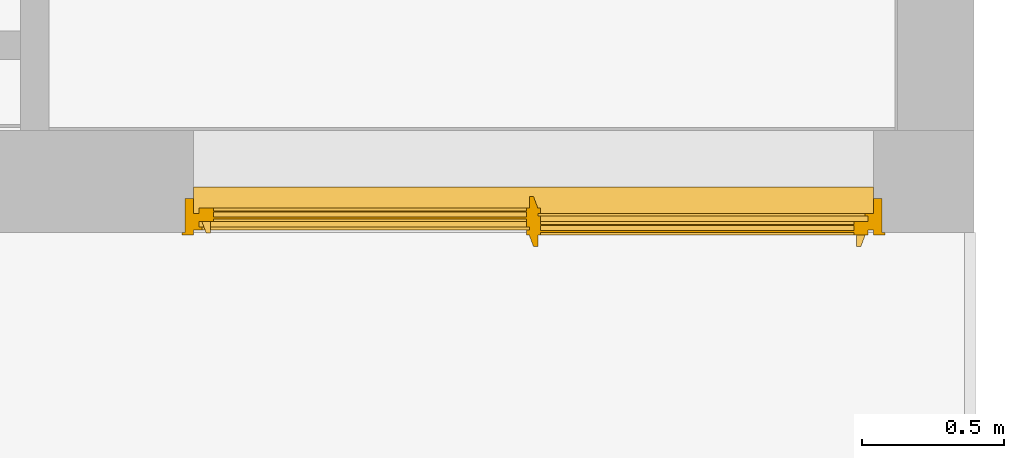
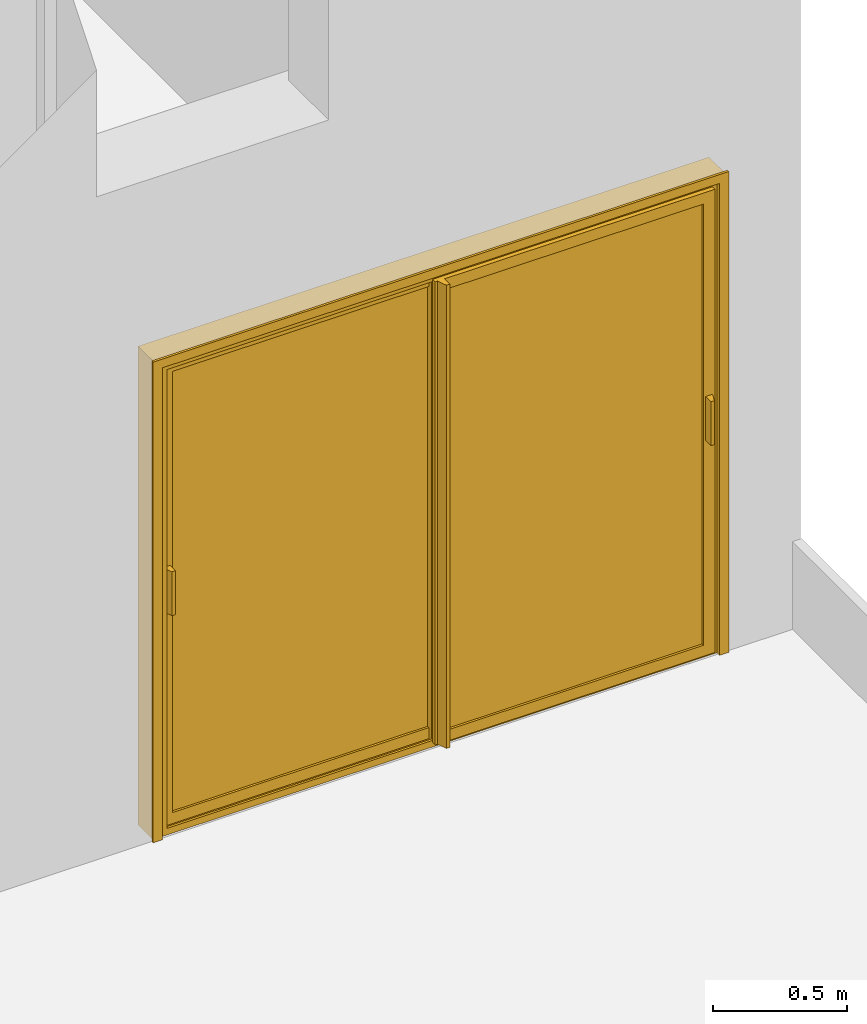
# One storey, part 78 of 81: 1 door.
"""IFC2X3 building model written with IfcOpenShell, lengths in metres."""

from ifc_helpers import new_model, entity, si_unit, converted_unit, derived_unit, direction, frame, origin, place, context, subcontext, project, spatial, faceted_brep, source, transform, mapped, material, material_list, type_object, type_shapes, element, save


model = new_model("IFC2X3")

# Units and contexts
model_context = context("Model", 3, precision=1e-05, world=origin(), true_north=direction((6.12303176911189e-17, 1.0)))
body_context = subcontext(model_context, "Body", "Model", "MODEL_VIEW")
ifc_project = project(units=[si_unit("LENGTHUNIT", "METRE"), si_unit("AREAUNIT", "SQUARE_METRE"), si_unit("VOLUMEUNIT", "CUBIC_METRE"), converted_unit("PLANEANGLEUNIT", "DEGREE", entity("IfcRatioMeasure", 0.0174532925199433), si_unit("PLANEANGLEUNIT", "RADIAN"), dimensions=[0, 0, 0, 0, 0, 0, 0]), si_unit("MASSUNIT", "GRAM", prefix="KILO"), derived_unit("MASSDENSITYUNIT", [(si_unit("MASSUNIT", "GRAM", prefix="KILO"), 1), (si_unit("LENGTHUNIT", "METRE"), -3)]), derived_unit("MOMENTOFINERTIAUNIT", [(si_unit("LENGTHUNIT", "METRE"), 4)]), si_unit("TIMEUNIT", "SECOND"), si_unit("FREQUENCYUNIT", "HERTZ"), si_unit("THERMODYNAMICTEMPERATUREUNIT", "DEGREE_CELSIUS"), derived_unit("THERMALTRANSMITTANCEUNIT", [(si_unit("MASSUNIT", "GRAM", prefix="KILO"), 1), (si_unit("THERMODYNAMICTEMPERATUREUNIT", "KELVIN"), -1), (si_unit("TIMEUNIT", "SECOND"), -3)]), derived_unit("VOLUMETRICFLOWRATEUNIT", [(si_unit("LENGTHUNIT", "METRE"), 3), (si_unit("TIMEUNIT", "SECOND"), -1)]), si_unit("ELECTRICCURRENTUNIT", "AMPERE"), si_unit("ELECTRICVOLTAGEUNIT", "VOLT"), si_unit("POWERUNIT", "WATT"), si_unit("FORCEUNIT", "NEWTON", prefix="KILO"), si_unit("ILLUMINANCEUNIT", "LUX"), si_unit("LUMINOUSFLUXUNIT", "LUMEN"), si_unit("LUMINOUSINTENSITYUNIT", "CANDELA"), derived_unit("USERDEFINED", [(si_unit("MASSUNIT", "GRAM", prefix="KILO"), -1), (si_unit("LENGTHUNIT", "METRE"), -2), (si_unit("TIMEUNIT", "SECOND"), 3), (si_unit("LUMINOUSFLUXUNIT", "LUMEN"), 1)]), derived_unit("LINEARVELOCITYUNIT", [(si_unit("LENGTHUNIT", "METRE"), 1), (si_unit("TIMEUNIT", "SECOND"), -1)]), si_unit("PRESSUREUNIT", "PASCAL"), derived_unit("USERDEFINED", [(si_unit("LENGTHUNIT", "METRE"), -2), (si_unit("MASSUNIT", "GRAM", prefix="KILO"), 1), (si_unit("TIMEUNIT", "SECOND"), -2)]), derived_unit("LINEARFORCEUNIT", [(si_unit("MASSUNIT", "GRAM", prefix="KILO"), 1), (si_unit("LENGTHUNIT", "METRE"), 1), (si_unit("TIMEUNIT", "SECOND"), -2), (si_unit("LENGTHUNIT", "METRE"), -1)]), derived_unit("PLANARFORCEUNIT", [(si_unit("MASSUNIT", "GRAM", prefix="KILO"), 1), (si_unit("LENGTHUNIT", "METRE"), 1), (si_unit("TIMEUNIT", "SECOND"), -2), (si_unit("LENGTHUNIT", "METRE"), -2)])], contexts=[model_context])

# Site, building, storey
site_placement = place(None, origin())
site = spatial("IfcSite", under=ifc_project, at=site_placement, Name="Surface", CompositionType="ELEMENT")
building_placement = place(site_placement, origin())
building = spatial("IfcBuilding", under=site, at=building_placement, CompositionType="ELEMENT")
storey_placement = place(building_placement, origin())
storey = spatial("IfcBuildingStorey", under=building, at=storey_placement, Name="01 RDC", CompositionType="ELEMENT", Elevation=-1.94916083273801e-14)

# Door
ifc_material_1 = material(Name="RAL_7M16ST")
ifc_material_2 = material(Name="Generique - PIERRET - Blanc")
ifc_material_3 = material(Name="Verre - PIERRET - Vitrage")
ifc_material_4 = material(Name="Polyamide - PIERRET - Joint-Intercalaire")
ifc_material_5 = material(Name="Generique - PIERRET - Gris")
ifc_material_list_1 = material_list([ifc_material_1, ifc_material_2, ifc_material_3, ifc_material_4, ifc_material_5])
ifc_material_list_2 = material_list([ifc_material_1, ifc_material_1])
door_style = type_object("IfcDoorStyle", Name="Doors_Sliding_PIERRET_Porte-Fenetre_Coulissante_2V:2400 x 2150 mm", ConstructionType="NOTDEFINED", OperationType="DOUBLE_DOOR_SLIDING", ParameterTakesPrecedence=False, Sizeable=False, material=ifc_material_list_2)
shared_shape = source(origin(), body_context, "Body", "Brep", [
    faceted_brep([(1.215, 0.186000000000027, 0.0200000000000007), (1.215, 0.226000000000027, 0.0200000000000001), (1.23, 0.226000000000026, 0.0200000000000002), (1.245, 0.186000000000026, 0.0200000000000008), (1.21499999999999, 0.186000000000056, 2.13), (1.24499999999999, 0.186000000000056, 2.13), (1.22999999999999, 0.226000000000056, 2.13), (1.21499999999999, 0.226000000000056, 2.13)], [[[0, 1, 2, 3]], [[4, 5, 6, 7]], [[3, 5, 4, 0]], [[2, 6, 5, 3]], [[1, 7, 6, 2]], [[0, 4, 7, 1]]]),
    faceted_brep([(1.245, 0.0899999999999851, 0.0200000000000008), (1.245, 0.0499999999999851, 0.0200000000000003), (1.23, 0.0499999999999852, 0.0200000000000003), (1.215, 0.0899999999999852, 0.0200000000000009), (1.24500000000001, 0.0899999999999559, 2.13), (1.21500000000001, 0.089999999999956, 2.13), (1.23000000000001, 0.049999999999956, 2.13), (1.24500000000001, 0.0499999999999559, 2.13)], [[[0, 1, 2, 3]], [[4, 5, 6, 7]], [[3, 5, 4, 0]], [[2, 6, 5, 3]], [[1, 7, 6, 2]], [[0, 4, 7, 1]]]),
    faceted_brep([(0.090000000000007, 0.137999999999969, 1.0), (0.0900000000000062, 0.0979999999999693, 1.0), (0.0750000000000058, 0.0979999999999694, 1.0), (0.060000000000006, 0.137999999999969, 1.0), (0.090000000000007, 0.137999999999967, 1.2), (0.060000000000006, 0.137999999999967, 1.2), (0.0750000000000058, 0.0979999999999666, 1.2), (0.0900000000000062, 0.0979999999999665, 1.2)], [[[0, 1, 2, 3]], [[4, 5, 6, 7]], [[3, 5, 4, 0]], [[2, 6, 5, 3]], [[1, 7, 6, 2]], [[0, 4, 7, 1]]]),
    faceted_brep([(0.0880000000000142, 0.147999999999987, 0.0580000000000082), (0.0880000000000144, 0.153999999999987, 0.0580000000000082), (1.217, 0.153999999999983, 0.0580000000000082), (1.217, 0.147999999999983, 0.0580000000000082), (0.0880000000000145, 0.147999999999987, 2.09200000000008), (1.217, 0.147999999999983, 2.09200000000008), (1.217, 0.153999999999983, 2.09200000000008), (0.0880000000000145, 0.153999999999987, 2.09200000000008)], [[[0, 1, 2, 3]], [[4, 0, 3, 5]], [[5, 3, 2, 6]], [[6, 2, 1, 7]], [[7, 1, 0, 4]], [[4, 5, 6, 7]]]),
    faceted_brep([(1.217, 0.171999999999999, 2.09200000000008), (1.217, 0.171999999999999, 0.0580000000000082), (1.217, 0.175999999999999, 0.0580000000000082), (1.217, 0.175999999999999, 2.09200000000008), (0.0880000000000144, 0.176000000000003, 0.0580000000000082), (0.0880000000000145, 0.176000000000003, 2.09200000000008), (0.0880000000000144, 0.172000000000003, 0.0580000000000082), (0.0880000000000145, 0.172000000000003, 2.09200000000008)], [[[0, 1, 2, 3]], [[3, 2, 4, 5]], [[5, 4, 6, 7]], [[7, 6, 1, 0]], [[0, 3, 5, 7]], [[1, 6, 4, 2]]]),
    faceted_brep([(1.217, 0.153999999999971, 2.09199999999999), (1.217, 0.154, 0.0579999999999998), (1.217, 0.172000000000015, 0.0580000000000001), (1.217, 0.171999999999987, 2.09199999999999), (0.0880000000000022, 0.154000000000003, 0.0579999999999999), (0.0880000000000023, 0.172000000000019, 0.0580000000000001), (0.0880000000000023, 0.171999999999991, 2.09199999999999), (0.100000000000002, 0.172000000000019, 0.0699999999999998), (1.205, 0.172000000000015, 0.0699999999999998), (1.205, 0.171999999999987, 2.07999999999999), (0.100000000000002, 0.171999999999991, 2.08), (0.0880000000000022, 0.153999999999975, 2.09199999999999), (1.205, 0.153999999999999, 0.0699999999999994), (0.100000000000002, 0.154000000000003, 0.0699999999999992), (0.100000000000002, 0.153999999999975, 2.07999999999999), (1.205, 0.153999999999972, 2.07999999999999)], [[[0, 1, 2, 3]], [[1, 4, 5, 2]], [[2, 5, 6, 3], [7, 8, 9, 10]], [[4, 11, 6, 5]], [[4, 1, 0, 11], [12, 13, 14, 15]], [[8, 7, 13, 12]], [[7, 10, 14, 13]], [[10, 9, 15, 14]], [[11, 0, 3, 6]], [[9, 8, 12, 15]]]),
    faceted_brep([(1.217, 0.175999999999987, 2.09199999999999), (1.217, 0.176000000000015, 0.0580000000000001), (1.217, 0.147999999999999, 0.0579999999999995), (1.217, 0.147999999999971, 2.09199999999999), (0.0880000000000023, 0.176000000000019, 0.0580000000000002), (0.0880000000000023, 0.148000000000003, 0.0579999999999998), (0.0880000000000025, 0.147999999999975, 2.09199999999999), (0.080000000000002, 0.148000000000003, 0.0499999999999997), (1.225, 0.147999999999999, 0.0499999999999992), (1.225, 0.147999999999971, 2.09999999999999), (0.0800000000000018, 0.147999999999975, 2.09999999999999), (0.0880000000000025, 0.17599999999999, 2.09199999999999), (1.225, 0.176000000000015, 0.0499999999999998), (0.0800000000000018, 0.176000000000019, 0.0499999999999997), (0.080000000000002, 0.17599999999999, 2.09999999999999), (1.225, 0.175999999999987, 2.09999999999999)], [[[0, 1, 2, 3]], [[1, 4, 5, 2]], [[2, 5, 6, 3], [7, 8, 9, 10]], [[4, 11, 6, 5]], [[4, 1, 0, 11], [12, 13, 14, 15]], [[9, 8, 12, 15]], [[8, 7, 13, 12]], [[7, 10, 14, 13]], [[11, 0, 3, 6]], [[10, 9, 15, 14]]], outer=[[True], [True], [False, True], [True], [False, True], [True], [True], [True], [True], [True]]),
    faceted_brep([(1.225, 0.16199999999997, 2.10000000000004), (1.225, 0.161999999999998, 0.050000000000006), (1.225, 0.147999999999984, 0.050000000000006), (1.225, 0.147999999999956, 2.10000000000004), (0.0800000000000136, 0.162000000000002, 0.050000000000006), (0.0800000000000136, 0.147999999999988, 0.0500000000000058), (0.0800000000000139, 0.14799999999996, 2.10000000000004), (0.100000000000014, 0.147999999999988, 0.0700000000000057), (1.205, 0.147999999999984, 0.0700000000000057), (1.205, 0.147999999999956, 2.08000000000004), (0.100000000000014, 0.14799999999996, 2.08000000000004), (0.0800000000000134, 0.161999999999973, 2.10000000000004), (1.245, 0.161999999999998, 0.030000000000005), (0.0600000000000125, 0.162000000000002, 0.0300000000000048), (0.0600000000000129, 0.161999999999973, 2.12000000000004), (1.245, 0.161999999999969, 2.12000000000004), (1.245, 0.156999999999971, 2.12000000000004), (1.245, 0.157, 0.0300000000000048), (0.0600000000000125, 0.157000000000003, 0.0300000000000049), (0.0600000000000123, 0.156999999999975, 2.12000000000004), (1.255, 0.157, 0.0200000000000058), (0.0500000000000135, 0.157000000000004, 0.0200000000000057), (0.0500000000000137, 0.156999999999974, 2.13000000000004), (1.255, 0.156999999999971, 2.13000000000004), (1.255, 0.137999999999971, 2.13000000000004), (1.255, 0.138000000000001, 0.0200000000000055), (0.0500000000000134, 0.138000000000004, 0.0200000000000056), (0.0500000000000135, 0.137999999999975, 2.13000000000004), (1.205, 0.138, 0.0700000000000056), (0.100000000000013, 0.138000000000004, 0.0700000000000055), (0.100000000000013, 0.137999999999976, 2.08000000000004), (1.205, 0.137999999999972, 2.08000000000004)], [[[0, 1, 2, 3]], [[1, 4, 5, 2]], [[2, 5, 6, 3], [7, 8, 9, 10]], [[4, 11, 6, 5]], [[4, 1, 0, 11], [12, 13, 14, 15]], [[16, 17, 12, 15]], [[17, 18, 13, 12]], [[18, 19, 14, 13]], [[18, 17, 16, 19], [20, 21, 22, 23]], [[24, 25, 20, 23]], [[25, 26, 21, 20]], [[26, 27, 22, 21]], [[26, 25, 24, 27], [28, 29, 30, 31]], [[8, 7, 29, 28]], [[7, 10, 30, 29]], [[10, 9, 31, 30]], [[11, 0, 3, 6]], [[19, 16, 15, 14]], [[27, 24, 23, 22]], [[9, 8, 28, 31]]], outer=[[True], [True], [True, False], [True], [False, True], [True], [True], [True], [False, True], [True], [True], [True], [True, False], [True], [True], [True], [True], [True], [True], [True]]),
    faceted_brep([(1.255, 0.166999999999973, 2.13000000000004), (1.255, 0.167000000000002, 0.0199999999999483), (1.255, 0.186, 0.0199999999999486), (1.255, 0.185999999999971, 2.13000000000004), (0.0500000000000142, 0.167000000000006, 0.0199999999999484), (0.0500000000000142, 0.186000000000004, 0.0199999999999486), (0.0500000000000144, 0.185999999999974, 2.13000000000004), (0.100000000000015, 0.186000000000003, 0.0699999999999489), (1.205, 0.185999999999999, 0.0699999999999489), (1.205, 0.185999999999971, 2.08000000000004), (0.100000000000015, 0.185999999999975, 2.08000000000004), (0.0500000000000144, 0.166999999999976, 2.13000000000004), (1.245, 0.167000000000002, 0.0299999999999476), (0.0600000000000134, 0.167000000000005, 0.0299999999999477), (0.0600000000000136, 0.166999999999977, 2.12000000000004), (1.245, 0.166999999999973, 2.12000000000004), (1.245, 0.161999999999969, 2.12000000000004), (1.245, 0.161999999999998, 0.0299999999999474), (0.0600000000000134, 0.162000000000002, 0.0299999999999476), (0.0600000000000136, 0.161999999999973, 2.12000000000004), (1.225, 0.161999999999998, 0.0499999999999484), (0.0800000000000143, 0.162000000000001, 0.0499999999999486), (0.0800000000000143, 0.161999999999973, 2.10000000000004), (1.225, 0.161999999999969, 2.10000000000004), (1.225, 0.175999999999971, 2.10000000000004), (1.225, 0.176, 0.0499999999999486), (0.0800000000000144, 0.176000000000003, 0.0499999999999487), (0.0800000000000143, 0.175999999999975, 2.10000000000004), (1.205, 0.176, 0.0699999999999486), (0.100000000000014, 0.176000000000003, 0.0699999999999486), (0.100000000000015, 0.175999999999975, 2.08000000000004), (1.205, 0.175999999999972, 2.08000000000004)], [[[0, 1, 2, 3]], [[1, 4, 5, 2]], [[2, 5, 6, 3], [7, 8, 9, 10]], [[4, 11, 6, 5]], [[4, 1, 0, 11], [12, 13, 14, 15]], [[16, 17, 12, 15]], [[17, 18, 13, 12]], [[18, 19, 14, 13]], [[18, 17, 16, 19], [20, 21, 22, 23]], [[24, 25, 20, 23]], [[25, 26, 21, 20]], [[26, 27, 22, 21]], [[26, 25, 24, 27], [28, 29, 30, 31]], [[8, 7, 29, 28]], [[7, 10, 30, 29]], [[11, 0, 3, 6]], [[19, 16, 15, 14]], [[27, 24, 23, 22]], [[10, 9, 31, 30]], [[9, 8, 28, 31]]]),
    faceted_brep([(2.37, 0.0899999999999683, 1.0), (2.4, 0.0899999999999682, 1.0), (2.385, 0.0499999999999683, 1.0), (2.37, 0.0499999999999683, 1.0), (2.37, 0.0899999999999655, 1.2), (2.37, 0.0499999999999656, 1.2), (2.385, 0.0499999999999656, 1.2), (2.4, 0.0899999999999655, 1.2)], [[[0, 1, 2, 3]], [[4, 5, 6, 7]], [[1, 0, 4, 7]], [[2, 1, 7, 6]], [[3, 2, 6, 5]], [[0, 3, 5, 4]]]),
    faceted_brep([(2.37199999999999, 0.0999999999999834, 0.0580000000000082), (1.243, 0.0999999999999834, 0.0580000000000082), (1.243, 0.105999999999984, 0.0580000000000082), (2.37199999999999, 0.105999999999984, 0.0580000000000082), (2.37199999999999, 0.0999999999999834, 2.09200000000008), (1.243, 0.0999999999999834, 2.09200000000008), (1.243, 0.105999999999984, 2.09200000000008), (2.37199999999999, 0.105999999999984, 2.09200000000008)], [[[0, 1, 2, 3]], [[4, 5, 1, 0]], [[5, 6, 2, 1]], [[6, 7, 3, 2]], [[7, 4, 0, 3]], [[4, 7, 6, 5]]]),
    faceted_brep([(1.243, 0.123999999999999, 2.09200000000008), (1.243, 0.127999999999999, 2.09200000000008), (1.243, 0.127999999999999, 0.0580000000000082), (1.243, 0.123999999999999, 0.0580000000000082), (2.37199999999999, 0.127999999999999, 2.09200000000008), (2.37199999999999, 0.127999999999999, 0.0580000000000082), (2.37199999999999, 0.123999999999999, 2.09200000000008), (2.37199999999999, 0.123999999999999, 0.0580000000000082)], [[[0, 1, 2, 3]], [[1, 4, 5, 2]], [[4, 6, 7, 5]], [[6, 0, 3, 7]], [[0, 6, 4, 1]], [[3, 2, 5, 7]]]),
    faceted_brep([(1.243, 0.105999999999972, 2.09199999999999), (1.243, 0.123999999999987, 2.09199999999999), (1.243, 0.124000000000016, 0.0580000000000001), (1.243, 0.106, 0.0579999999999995), (2.372, 0.124000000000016, 0.058), (2.372, 0.106, 0.0579999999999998), (2.372, 0.123999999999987, 2.09199999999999), (2.36, 0.124000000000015, 0.0699999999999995), (2.36, 0.123999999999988, 2.07999999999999), (1.255, 0.123999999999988, 2.08), (1.255, 0.124000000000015, 0.0699999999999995), (2.372, 0.105999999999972, 2.09199999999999), (1.255, 0.105999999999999, 0.069999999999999), (1.255, 0.105999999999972, 2.07999999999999), (2.36, 0.105999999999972, 2.07999999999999), (2.36, 0.105999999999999, 0.0699999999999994)], [[[0, 1, 2, 3]], [[3, 2, 4, 5]], [[2, 1, 6, 4], [7, 8, 9, 10]], [[5, 4, 6, 11]], [[5, 11, 0, 3], [12, 13, 14, 15]], [[10, 12, 15, 7]], [[7, 15, 14, 8]], [[8, 14, 13, 9]], [[11, 6, 1, 0]], [[9, 13, 12, 10]]]),
    faceted_brep([(1.243, 0.127999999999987, 2.09199999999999), (1.243, 0.0999999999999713, 2.09199999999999), (1.243, 0.0999999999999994, 0.0579999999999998), (1.243, 0.128000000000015, 0.0580000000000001), (2.372, 0.0999999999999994, 0.0579999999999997), (2.372, 0.128000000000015, 0.0580000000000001), (2.372, 0.0999999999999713, 2.09199999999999), (2.38, 0.0999999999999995, 0.0499999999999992), (2.38, 0.0999999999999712, 2.09999999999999), (1.235, 0.0999999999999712, 2.09999999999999), (1.235, 0.0999999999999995, 0.0499999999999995), (2.372, 0.127999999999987, 2.09199999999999), (1.235, 0.128000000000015, 0.0499999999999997), (1.235, 0.127999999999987, 2.09999999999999), (2.38, 0.127999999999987, 2.09999999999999), (2.38, 0.128000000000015, 0.0499999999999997)], [[[0, 1, 2, 3]], [[3, 2, 4, 5]], [[2, 1, 6, 4], [7, 8, 9, 10]], [[5, 4, 6, 11]], [[5, 11, 0, 3], [12, 13, 14, 15]], [[9, 13, 12, 10]], [[10, 12, 15, 7]], [[7, 15, 14, 8]], [[11, 6, 1, 0]], [[8, 14, 13, 9]]], outer=[[True], [True], [False, True], [True], [False, True], [True], [True], [True], [True], [True]]),
    faceted_brep([(1.23500000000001, 0.11399999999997, 2.10000000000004), (1.23500000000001, 0.0999999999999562, 2.10000000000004), (1.23500000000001, 0.0999999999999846, 0.050000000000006), (1.23500000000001, 0.113999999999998, 0.050000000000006), (2.37999999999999, 0.0999999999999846, 0.0500000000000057), (2.37999999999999, 0.113999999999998, 0.050000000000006), (2.37999999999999, 0.0999999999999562, 2.10000000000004), (2.35999999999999, 0.0999999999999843, 0.0700000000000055), (2.35999999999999, 0.0999999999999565, 2.08000000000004), (1.25500000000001, 0.0999999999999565, 2.08000000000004), (1.25500000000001, 0.0999999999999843, 0.0700000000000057), (2.37999999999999, 0.11399999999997, 2.10000000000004), (1.215, 0.113999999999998, 0.0300000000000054), (1.215, 0.11399999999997, 2.12000000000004), (2.39999999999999, 0.11399999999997, 2.12000000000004), (2.39999999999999, 0.113999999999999, 0.0300000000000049), (1.215, 0.108999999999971, 2.12000000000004), (1.215, 0.109, 0.0300000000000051), (2.39999999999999, 0.109, 0.0300000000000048), (2.39999999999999, 0.108999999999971, 2.12000000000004), (1.20500000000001, 0.109, 0.0200000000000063), (1.20500000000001, 0.108999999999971, 2.13000000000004), (2.40999999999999, 0.108999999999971, 2.13000000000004), (2.40999999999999, 0.109, 0.0200000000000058), (1.20500000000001, 0.0899999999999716, 2.13000000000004), (1.20500000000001, 0.0900000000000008, 0.0200000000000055), (2.40999999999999, 0.0900000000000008, 0.0200000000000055), (2.40999999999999, 0.0899999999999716, 2.13000000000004), (1.25500000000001, 0.0900000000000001, 0.0700000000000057), (1.25500000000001, 0.0899999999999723, 2.08000000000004), (2.35999999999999, 0.0899999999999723, 2.08000000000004), (2.35999999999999, 0.0900000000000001, 0.0700000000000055)], [[[0, 1, 2, 3]], [[3, 2, 4, 5]], [[2, 1, 6, 4], [7, 8, 9, 10]], [[5, 4, 6, 11]], [[5, 11, 0, 3], [12, 13, 14, 15]], [[16, 13, 12, 17]], [[17, 12, 15, 18]], [[18, 15, 14, 19]], [[18, 19, 16, 17], [20, 21, 22, 23]], [[24, 21, 20, 25]], [[25, 20, 23, 26]], [[26, 23, 22, 27]], [[26, 27, 24, 25], [28, 29, 30, 31]], [[10, 28, 31, 7]], [[7, 31, 30, 8]], [[8, 30, 29, 9]], [[11, 6, 1, 0]], [[19, 14, 13, 16]], [[27, 22, 21, 24]], [[9, 29, 28, 10]]], outer=[[True], [True], [True, False], [True], [False, True], [True], [True], [True], [False, True], [True], [True], [True], [True, False], [True], [True], [True], [True], [True], [True], [True]]),
    faceted_brep([(1.20500000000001, 0.118999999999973, 2.13000000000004), (1.20500000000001, 0.137999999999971, 2.13000000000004), (1.20500000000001, 0.138, 0.0199999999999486), (1.20500000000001, 0.119000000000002, 0.0199999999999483), (2.40999999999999, 0.138, 0.0199999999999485), (2.40999999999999, 0.119000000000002, 0.0199999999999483), (2.40999999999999, 0.137999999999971, 2.13000000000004), (2.35999999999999, 0.137999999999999, 0.0699999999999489), (2.35999999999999, 0.137999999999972, 2.08000000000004), (1.25500000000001, 0.137999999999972, 2.08000000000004), (1.25500000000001, 0.137999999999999, 0.0699999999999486), (2.40999999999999, 0.118999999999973, 2.13000000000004), (1.215, 0.119000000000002, 0.0299999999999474), (1.215, 0.118999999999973, 2.12000000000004), (2.39999999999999, 0.118999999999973, 2.12000000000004), (2.39999999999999, 0.119000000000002, 0.0299999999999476), (1.215, 0.113999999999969, 2.12000000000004), (1.215, 0.113999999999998, 0.0299999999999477), (2.39999999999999, 0.113999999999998, 0.0299999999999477), (2.39999999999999, 0.113999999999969, 2.12000000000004), (1.23500000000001, 0.113999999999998, 0.0499999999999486), (1.23500000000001, 0.11399999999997, 2.10000000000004), (2.37999999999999, 0.11399999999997, 2.10000000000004), (2.37999999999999, 0.113999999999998, 0.0499999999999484), (1.23500000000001, 0.127999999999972, 2.10000000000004), (1.23500000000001, 0.128, 0.0499999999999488), (2.37999999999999, 0.128, 0.0499999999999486), (2.37999999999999, 0.127999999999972, 2.10000000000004), (1.25500000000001, 0.128, 0.0699999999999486), (1.25500000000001, 0.127999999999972, 2.08000000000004), (2.35999999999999, 0.127999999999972, 2.08000000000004), (2.35999999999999, 0.128, 0.0699999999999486)], [[[0, 1, 2, 3]], [[3, 2, 4, 5]], [[2, 1, 6, 4], [7, 8, 9, 10]], [[5, 4, 6, 11]], [[5, 11, 0, 3], [12, 13, 14, 15]], [[16, 13, 12, 17]], [[17, 12, 15, 18]], [[18, 15, 14, 19]], [[18, 19, 16, 17], [20, 21, 22, 23]], [[24, 21, 20, 25]], [[25, 20, 23, 26]], [[26, 23, 22, 27]], [[26, 27, 24, 25], [28, 29, 30, 31]], [[10, 28, 31, 7]], [[7, 31, 30, 8]], [[11, 6, 1, 0]], [[19, 14, 13, 16]], [[27, 22, 21, 24]], [[8, 30, 29, 9]], [[9, 29, 28, 10]]]),
    faceted_brep([(0.0300000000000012, 0.137999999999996, 2.14999999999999), (0.0300000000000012, 0.166999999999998, 2.14999999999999), (0.030000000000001, 0.166999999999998, 0.0), (0.030000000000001, 0.137999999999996, 0.0), (2.43, 0.166999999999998, 0.0), (2.43, 0.137999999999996, 0.0), (2.43, 0.166999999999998, 2.14999999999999), (2.39999999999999, 0.166999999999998, 0.0300000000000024), (2.39999999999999, 0.166999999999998, 2.11999999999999), (0.0600000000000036, 0.166999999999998, 2.11999999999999), (0.0600000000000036, 0.166999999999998, 0.0300000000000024), (2.43, 0.137999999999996, 2.14999999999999), (0.0500000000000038, 0.137999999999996, 0.0200000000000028), (0.0500000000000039, 0.137999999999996, 2.12999999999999), (2.40999999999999, 0.137999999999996, 2.12999999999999), (2.40999999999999, 0.137999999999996, 0.0200000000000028), (0.0500000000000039, 0.156999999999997, 2.12999999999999), (0.0500000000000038, 0.156999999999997, 0.0200000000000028), (2.40999999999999, 0.156999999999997, 0.0200000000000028), (2.40999999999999, 0.156999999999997, 2.12999999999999), (0.0600000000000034, 0.156999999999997, 0.0300000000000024), (0.0600000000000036, 0.156999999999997, 2.11999999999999), (2.39999999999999, 0.156999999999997, 2.11999999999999), (2.39999999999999, 0.156999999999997, 0.0300000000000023)], [[[0, 1, 2, 3]], [[3, 2, 4, 5]], [[2, 1, 6, 4], [7, 8, 9, 10]], [[5, 4, 6, 11]], [[5, 11, 0, 3], [12, 13, 14, 15]], [[16, 13, 12, 17]], [[17, 12, 15, 18]], [[18, 15, 14, 19]], [[18, 19, 16, 17], [20, 21, 22, 23]], [[9, 21, 20, 10]], [[10, 20, 23, 7]], [[7, 23, 22, 8]], [[11, 6, 1, 0]], [[19, 14, 13, 16]], [[8, 22, 21, 9]]]),
    faceted_brep([(0.0500000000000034, 0.137999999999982, 2.13), (0.0500000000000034, 0.118999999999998, 2.13), (0.0500000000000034, 0.118999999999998, 0.020000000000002), (0.0500000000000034, 0.137999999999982, 0.020000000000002), (2.41, 0.118999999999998, 0.020000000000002), (2.41, 0.137999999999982, 0.020000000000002), (2.43, 0.108999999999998, 0.0), (2.43, 0.108999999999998, 2.15), (0.0300000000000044, 0.108999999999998, 2.15), (0.0300000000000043, 0.108999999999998, 0.0), (0.0600000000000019, 0.108999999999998, 0.0300000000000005), (0.0600000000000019, 0.108999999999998, 2.12), (2.4, 0.108999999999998, 2.12), (2.4, 0.108999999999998, 0.0300000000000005), (2.41, 0.118999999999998, 2.13), (2.41, 0.137999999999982, 2.13), (0.0300000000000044, 0.137999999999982, 2.15), (0.0300000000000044, 0.137999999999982, 0.0), (2.43, 0.137999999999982, 0.0), (2.43, 0.137999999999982, 2.15), (2.4, 0.118999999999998, 0.0300000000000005), (2.4, 0.118999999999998, 2.12), (0.0600000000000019, 0.118999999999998, 2.12), (0.0600000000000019, 0.118999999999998, 0.0300000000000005)], [[[0, 1, 2, 3]], [[3, 2, 4, 5]], [[6, 7, 8, 9], [10, 11, 12, 13]], [[5, 4, 14, 15]], [[15, 14, 1, 0]], [[8, 16, 17, 9]], [[9, 17, 18, 6]], [[17, 16, 19, 18], [5, 15, 0, 3]], [[6, 18, 19, 7]], [[2, 1, 14, 4], [20, 21, 22, 23]], [[22, 11, 10, 23]], [[20, 13, 12, 21]], [[23, 10, 13, 20]], [[7, 19, 16, 8]], [[21, 12, 11, 22]]]),
    faceted_brep([(0.0, 0.137999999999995, 2.18), (0.0, 0.219999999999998, 2.18), (0.0, 0.219999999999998, 0.0), (0.0, 0.137999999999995, 0.0), (2.46, 0.137999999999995, 0.0), (2.46, 0.219999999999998, 0.0), (2.46, 0.219999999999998, 2.18), (2.46, 0.137999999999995, 2.18), (2.43, 0.219999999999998, 0.0), (2.43, 0.137999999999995, 0.0), (2.43, 0.137999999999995, 2.15), (2.43, 0.219999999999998, 2.15), (0.0300000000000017, 0.219999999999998, 2.15), (0.0300000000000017, 0.137999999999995, 2.15), (0.0300000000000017, 0.137999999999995, 0.0), (0.0300000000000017, 0.219999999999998, 0.0)], [[[0, 1, 2, 3]], [[4, 5, 6, 7]], [[8, 9, 10, 11]], [[12, 13, 14, 15]], [[7, 6, 1, 0]], [[11, 10, 13, 12]], [[5, 8, 11, 12, 15, 2, 1, 6]], [[8, 5, 4, 9]], [[9, 4, 7, 0, 3, 14, 13, 10]], [[15, 14, 3, 2]]]),
    faceted_brep([(0.0, 0.0999999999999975, 2.18), (0.0, 0.137999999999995, 2.18), (0.0, 0.137999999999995, 0.0), (0.0, 0.0999999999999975, 0.0), (2.46, 0.0999999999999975, 0.0), (2.46, 0.137999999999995, 0.0), (2.46, 0.137999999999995, 2.18), (2.46, 0.0999999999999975, 2.18), (-0.00999999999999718, 0.0900000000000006, 2.19), (-0.00999999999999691, 0.0999999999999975, 2.19), (-0.00999999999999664, 0.0999999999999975, 0.0), (-0.00999999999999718, 0.0900000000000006, 0.0), (2.47, 0.0900000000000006, 0.0), (2.47, 0.0999999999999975, 0.0), (2.47, 0.0999999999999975, 2.19), (2.47, 0.0900000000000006, 2.19), (0.0300000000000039, 0.137999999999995, 2.15), (0.0300000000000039, 0.0900000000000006, 2.15), (0.0300000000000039, 0.0900000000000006, 0.0), (0.030000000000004, 0.137999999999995, 0.0), (2.43, 0.137999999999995, 0.0), (2.43, 0.0900000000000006, 0.0), (2.43, 0.0900000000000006, 2.15), (2.43, 0.137999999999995, 2.15)], [[[0, 1, 2, 3]], [[4, 5, 6, 7]], [[8, 9, 10, 11]], [[12, 13, 14, 15]], [[16, 17, 18, 19]], [[20, 21, 22, 23]], [[7, 6, 1, 0]], [[15, 14, 9, 8]], [[23, 22, 17, 16]], [[20, 5, 4, 13, 12, 21]], [[5, 20, 23, 16, 19, 2, 1, 6]], [[13, 4, 7, 0, 3, 10, 9, 14]], [[21, 12, 15, 8, 11, 18, 17, 22]], [[19, 18, 11, 10, 3, 2]]]),
    faceted_brep([(2.43, 0.259999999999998, 0.00999999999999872), (2.43, 0.220669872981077, 0.019999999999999), (2.43, 0.166999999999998, 0.019999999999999), (2.43, 0.166999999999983, 0.0), (2.43, 0.259999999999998, 0.0), (0.0299999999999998, 0.259999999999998, 0.00999999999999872), (0.0299999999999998, 0.259999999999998, 0.0), (0.0299999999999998, 0.166999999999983, 0.0), (0.0299999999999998, 0.166999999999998, 0.019999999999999), (0.0299999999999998, 0.220669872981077, 0.019999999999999)], [[[0, 1, 2, 3, 4]], [[5, 6, 7, 8, 9]], [[3, 2, 8, 7]], [[4, 3, 7, 6]], [[0, 4, 6, 5]], [[1, 0, 5, 9]], [[2, 1, 9, 8]]]),
])
type_shapes(door_style, [shared_shape])
door_placement = place(storey_placement, frame((10.9115615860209, -3.79596095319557, 0.0)))
element("IfcDoor", 1, at=door_placement, inside=storey, type_object=door_style, material=ifc_material_list_1, Name="Doors_Sliding_PIERRET_Porte-Fenetre_Coulissante_2V:2400 x 2150 mm", ObjectType="Doors_Sliding_PIERRET_Porte-Fenetre_Coulissante_2V:2400 x 2150 mm", OverallHeight=2.19, OverallWidth=2.48, context=body_context, shape_type="MappedRepresentation", body=[
    mapped(shared_shape, transform((0.0, 0.0, 0.0), scale=1.0)),
])

save(model, "model.ifc")
